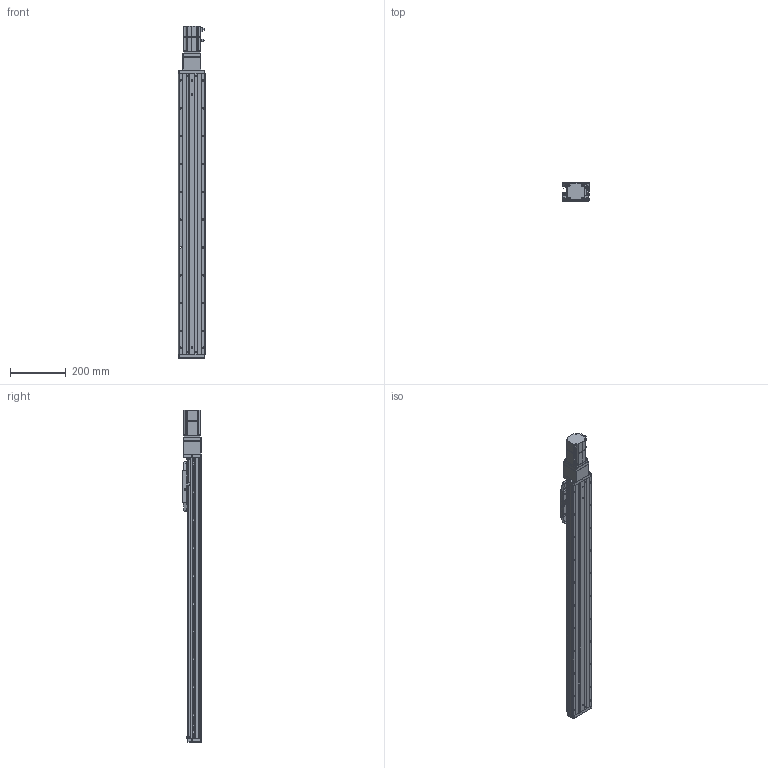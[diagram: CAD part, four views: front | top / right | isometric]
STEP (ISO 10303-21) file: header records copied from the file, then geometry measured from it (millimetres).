
FILE_DESCRIPTION (( 'STEP AP203' ), '1' );
FILE_NAME ('CTHA100-800-BC-M20-C4L.step', '2022-07-06T08:53:52', ( '微软用户' ), ( '微软中国' ), 'SwSTEP 2.0', 'SolidWorks 2020', '' );
FILE_SCHEMA (( 'CONFIG_CONTROL_DESIGN' ));
Length unit declared in the file: millimetre
Products named in the file (20): GB¨uT 70.2-M3¡Á5_M3¡Á6; CTHA60-016; CTHA100-031; EE_SX911P_R; _X2_4E0983F1_X0_200W_1; CTHA86-030; CTHA60-017; CTHA86-013; CTHA100-800-BC-M20-C4L; CTHA60-021; CTHA86-027; KTHA100-001_1010; GBT77-2000 M3×3; CTHA86-006-1_CTHA86-006-2; KTHA100-004; GBT 70.1-M3℅6; GBT 70.3-M3℅6; KTHA100-005; GBT70.1 M5℅16; CTHA100-002
Assembly tree (63 placements, depth 2):
  CTHA100-800-BC-M20-C4L
    KTHA100-001_1010
    KTHA100-004
    KTHA100-005
    GB¨uT 70.2-M3¡Á5_M3¡Á6  x10
    EE_SX911P_R  x3
    CTHA60-017  x3
    CTHA60-021  x2
    GBT77-2000 M3×3  x6
    GBT 70.1-M3℅6  x6
    GBT70.1 M5℅16  x14
    CTHA60-016  x2
    _X2_4E0983F1_X0_200W_1
    CTHA86-013
    CTHA86-027
    CTHA86-006-1_CTHA86-006-2
    GBT 70.3-M3℅6  x6
    CTHA100-002
    CTHA100-031
    CTHA86-030  x2
Bounding box: 98.82 x 68 x 1192.5 mm (x, y, z)
Volume: 4245878.4 mm3; surface area: 724584.3 mm2
Topology: 65 solids, 65 shells, 2699 faces, 6494 edges, 4012 vertices
Faces by surface type: plane 1411, cylinder 703, cone 380, torus 112, bspline 69, sphere 24
Entity records: 47580 total; most frequent: CARTESIAN_POINT 8898, DIRECTION 7481, ORIENTED_EDGE 7260, EDGE_CURVE 3630, AXIS2_PLACEMENT_3D 2531, VECTOR 2419, LINE 2419, VERTEX_POINT 2290
